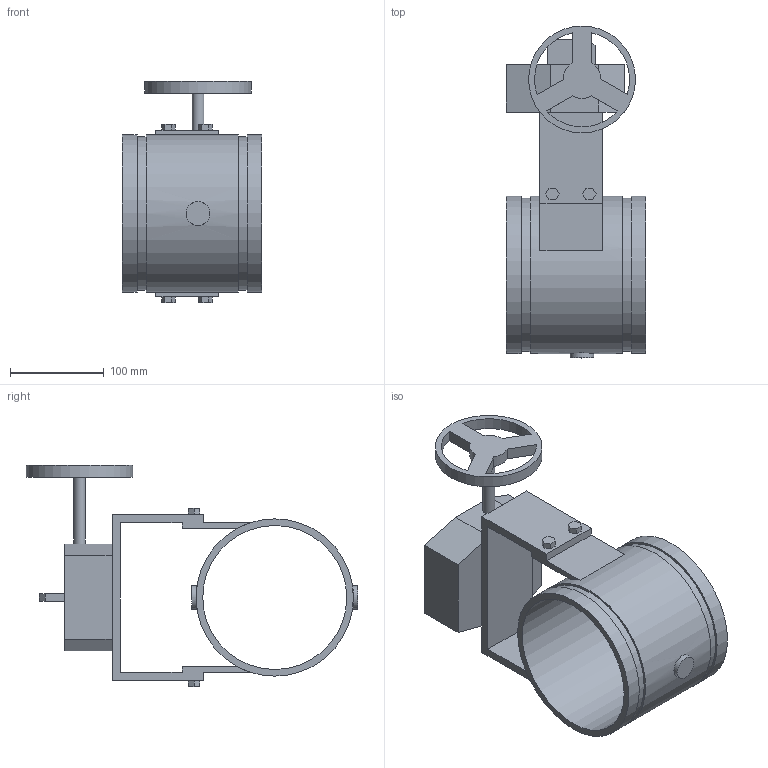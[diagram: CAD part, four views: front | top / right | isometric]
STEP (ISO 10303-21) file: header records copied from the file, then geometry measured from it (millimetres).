
FILE_DESCRIPTION(/* description */ ('VIC FIRELOCK BUTTERFLY VALVE SERIES 707 W/ WEATHERPROOF ACTUATOR FOR 300 PSI','CAx-IF Rec.Pracs.---Representation and Presentation of Product Manufacturing Information (PMI)---4.0---2014-10-13'),/* implementation_level */ '2;1');
FILE_NAME(/* name */ 'C:\Users\Vjadhav\AppData\Roaming\Autodesk\ApplicationPlugins\Back Up\Victaulic_FP-FireLock_Valve Butterfly_Series 707 (OGS)-Closed\Victaulic_FP-FireLock_Valve Butterfly_Series 707 (OGS)-Closed_6 (150).stp',/* time_stamp */ '2020-07-22T11:31:38+05:00',/* author */ ('kkamble'),/* organization */ ('Victaulic'),/* preprocessor_version */ 'ST-DEVELOPER v17.2',/* originating_system */ 'Autodesk Inventor 2019',/* authorisation */ '');
FILE_SCHEMA (('AP242_MANAGED_MODEL_BASED_3D_ENGINEERING_MIM_LF { 1 0 10303 442 1 1 4 }'));
Length unit declared in the file: inch
Products named in the file (1): 707-06.0
Bounding box: 149.61 x 354.81 x 236.73 mm (x, y, z)
Volume: 1573118.1 mm3; surface area: 293909.5 mm2
Topology: 1 solids, 1 shells, 95 faces, 254 edges, 173 vertices
Faces by surface type: plane 79, cylinder 16
Full cylindrical faces by diameter (mm): 12.624 x1, 25.4 x2, 114.3 x1, 154.051 x1, 163.957 x2, 168.275 x3
Entity records: 3306 total; most frequent: CARTESIAN_POINT 609, DIRECTION 515, ORIENTED_EDGE 508, EDGE_CURVE 254, LINE 201, VECTOR 201, VERTEX_POINT 173, AXIS2_PLACEMENT_3D 157
